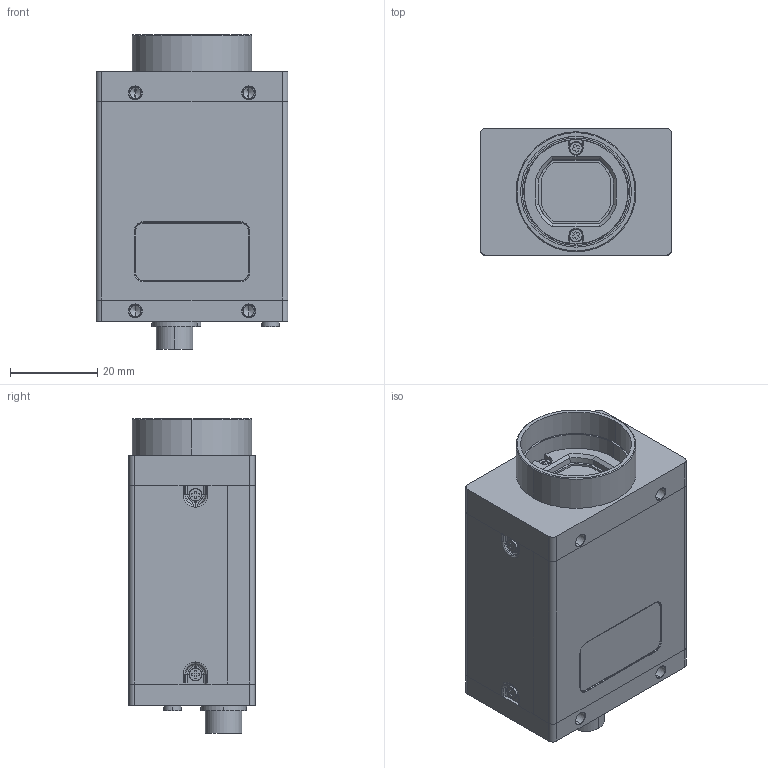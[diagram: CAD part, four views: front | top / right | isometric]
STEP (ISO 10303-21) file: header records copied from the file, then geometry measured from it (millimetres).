
FILE_DESCRIPTION (( 'STEP AP203' ), '1' );
FILE_NAME ('GSR-005-R0.STEP', '2013-12-20T21:39:21', ( 'Gus' ), ( '' ), 'SwSTEP 2.0', 'SolidWorks 2014', '' );
FILE_SCHEMA (( 'CONFIG_CONTROL_DESIGN' ));
Length unit declared in the file: millimetre
Products named in the file (1): GSR-005-R0
Bounding box: 44 x 29 x 72.14 mm (x, y, z)
Volume: 72705.7 mm3; surface area: 13651.4 mm2
Topology: 1 solids, 1 shells, 469 faces, 1151 edges, 714 vertices
Faces by surface type: plane 221, cylinder 137, cone 62, torus 48, sphere 1
Entity records: 13721 total; most frequent: DIRECTION 2474, CARTESIAN_POINT 2374, ORIENTED_EDGE 2264, EDGE_CURVE 1132, AXIS2_PLACEMENT_3D 892, VERTEX_POINT 712, LINE 690, VECTOR 690
